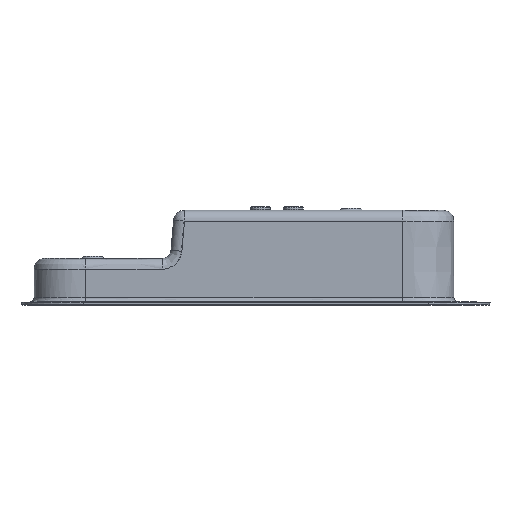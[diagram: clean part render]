
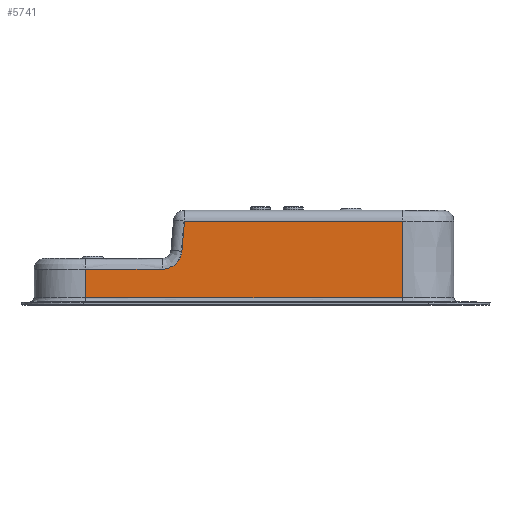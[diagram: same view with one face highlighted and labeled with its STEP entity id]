
A CAD part, top view. The second image highlights one B-rep face of the part: STEP entity #5741.
In plain terms, the highlighted planar face has unit normal (0, 0, 1) as drawn and (0, 1, 0) by its records, which use the part's own axes.
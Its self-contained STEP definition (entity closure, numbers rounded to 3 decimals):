
#419=B_SPLINE_CURVE_WITH_KNOTS('',3,(#13692,#13693,#13694,#13695,#13696,
#13697,#13698,#13699,#13700,#13701,#13702,#13703,#13704,#13705,#13706,#13707,
#13708,#13709,#13710,#13711,#13712,#13713,#13714,#13715,#13716,#13717,#13718,
#13719,#13720,#13721,#13722,#13723,#13724,#13725,#13726,#13727,#13728,#13729,
#13730,#13731,#13732,#13733,#13734,#13735,#13736,#13737,#13738,#13739,#13740,
#13741,#13742,#13743,#13744,#13745,#13746,#13747,#13748,#13749,#13750,#13751,
#13752,#13753,#13754,#13755,#13756,#13757,#13758,#13759,#13760,#13761,#13762,
#13763,#13764,#13765,#13766,#13767,#13768,#13769,#13770),.UNSPECIFIED.,
 .F.,.F.,(4,3,3,3,3,3,3,3,3,3,3,3,3,3,3,3,3,3,3,3,3,3,3,3,3,3,4),(-1.,-0.96,
-0.919,-0.877,-0.835,-0.793,
-0.75,-0.711,-0.672,-0.633,-0.594,
-0.554,-0.515,-0.5,-0.461,-0.421,
-0.382,-0.343,-0.304,-0.265,
-0.25,-0.208,-0.166,-0.125,-0.084,
-0.042,0.),.UNSPECIFIED.);
#727=PLANE('',#6156);
#929=FACE_OUTER_BOUND('',#1295,.T.);
#1295=EDGE_LOOP('',(#4802,#4803,#4804,#4805,#4806,#4807,#4808));
#1799=LINE('',#13690,#2244);
#1800=LINE('',#13772,#2245);
#1801=LINE('',#13774,#2246);
#1802=LINE('',#13776,#2247);
#1803=LINE('',#13778,#2248);
#1804=LINE('',#13779,#2249);
#2244=VECTOR('',#6913,10.);
#2245=VECTOR('',#6914,10.);
#2246=VECTOR('',#6915,10.);
#2247=VECTOR('',#6916,10.);
#2248=VECTOR('',#6917,10.);
#2249=VECTOR('',#6918,10.);
#2783=VERTEX_POINT('',#13688);
#2784=VERTEX_POINT('',#13689);
#2785=VERTEX_POINT('',#13691);
#2786=VERTEX_POINT('',#13771);
#2787=VERTEX_POINT('',#13773);
#2788=VERTEX_POINT('',#13775);
#2789=VERTEX_POINT('',#13777);
#3490=EDGE_CURVE('',#2783,#2784,#1799,.T.);
#3491=EDGE_CURVE('',#2785,#2783,#419,.T.);
#3492=EDGE_CURVE('',#2786,#2785,#1800,.T.);
#3493=EDGE_CURVE('',#2787,#2786,#1801,.T.);
#3494=EDGE_CURVE('',#2788,#2787,#1802,.T.);
#3495=EDGE_CURVE('',#2789,#2788,#1803,.T.);
#3496=EDGE_CURVE('',#2784,#2789,#1804,.T.);
#4802=ORIENTED_EDGE('',*,*,#3490,.F.);
#4803=ORIENTED_EDGE('',*,*,#3491,.F.);
#4804=ORIENTED_EDGE('',*,*,#3492,.F.);
#4805=ORIENTED_EDGE('',*,*,#3493,.F.);
#4806=ORIENTED_EDGE('',*,*,#3494,.F.);
#4807=ORIENTED_EDGE('',*,*,#3495,.F.);
#4808=ORIENTED_EDGE('',*,*,#3496,.F.);
#5741=ADVANCED_FACE('',(#929),#727,.F.);
#6156=AXIS2_PLACEMENT_3D('',#13687,#6911,#6912);
#6911=DIRECTION('center_axis',(0.,-1.,0.));
#6912=DIRECTION('ref_axis',(0.,0.,-1.));
#6913=DIRECTION('',(0.085,0.,-0.996));
#6914=DIRECTION('',(1.,0.,0.));
#6915=DIRECTION('',(0.,0.,-1.));
#6916=DIRECTION('',(-1.,0.,0.));
#6917=DIRECTION('',(0.,0.,1.));
#6918=DIRECTION('',(1.,0.,0.));
#13687=CARTESIAN_POINT('Origin',(-72.444,432.743,-21.));
#13688=CARTESIAN_POINT('',(-27.661,432.743,-23.234));
#13689=CARTESIAN_POINT('',(-26.484,432.743,-37.));
#13690=CARTESIAN_POINT('',(-27.661,432.743,-23.234));
#13691=CARTESIAN_POINT('',(-36.628,432.743,-15.));
#13692=CARTESIAN_POINT('Ctrl Pts',(-36.628,432.743,-15.));
#13693=CARTESIAN_POINT('Ctrl Pts',(-36.448,432.743,-15.));
#13694=CARTESIAN_POINT('Ctrl Pts',(-36.268,432.743,-15.005));
#13695=CARTESIAN_POINT('Ctrl Pts',(-36.088,432.743,-15.016));
#13696=CARTESIAN_POINT('Ctrl Pts',(-35.907,432.743,-15.027));
#13697=CARTESIAN_POINT('Ctrl Pts',(-35.726,432.743,-15.043));
#13698=CARTESIAN_POINT('Ctrl Pts',(-35.546,432.743,-15.065));
#13699=CARTESIAN_POINT('Ctrl Pts',(-35.358,432.743,-15.087));
#13700=CARTESIAN_POINT('Ctrl Pts',(-35.172,432.743,-15.116));
#13701=CARTESIAN_POINT('Ctrl Pts',(-34.986,432.743,-15.15));
#13702=CARTESIAN_POINT('Ctrl Pts',(-34.805,432.743,-15.183));
#13703=CARTESIAN_POINT('Ctrl Pts',(-34.624,432.743,-15.223));
#13704=CARTESIAN_POINT('Ctrl Pts',(-34.445,432.743,-15.267));
#13705=CARTESIAN_POINT('Ctrl Pts',(-34.26,432.743,-15.313));
#13706=CARTESIAN_POINT('Ctrl Pts',(-34.078,432.743,-15.365));
#13707=CARTESIAN_POINT('Ctrl Pts',(-33.897,432.743,-15.422));
#13708=CARTESIAN_POINT('Ctrl Pts',(-33.717,432.743,-15.48));
#13709=CARTESIAN_POINT('Ctrl Pts',(-33.538,432.743,-15.543));
#13710=CARTESIAN_POINT('Ctrl Pts',(-33.363,432.743,-15.612));
#13711=CARTESIAN_POINT('Ctrl Pts',(-33.203,432.743,-15.674));
#13712=CARTESIAN_POINT('Ctrl Pts',(-33.045,432.743,-15.741));
#13713=CARTESIAN_POINT('Ctrl Pts',(-32.888,432.743,-15.812));
#13714=CARTESIAN_POINT('Ctrl Pts',(-32.731,432.743,-15.884));
#13715=CARTESIAN_POINT('Ctrl Pts',(-32.575,432.743,-15.961));
#13716=CARTESIAN_POINT('Ctrl Pts',(-32.421,432.743,-16.042));
#13717=CARTESIAN_POINT('Ctrl Pts',(-32.267,432.743,-16.124));
#13718=CARTESIAN_POINT('Ctrl Pts',(-32.115,432.743,-16.21));
#13719=CARTESIAN_POINT('Ctrl Pts',(-31.965,432.743,-16.301));
#13720=CARTESIAN_POINT('Ctrl Pts',(-31.815,432.743,-16.392));
#13721=CARTESIAN_POINT('Ctrl Pts',(-31.667,432.743,-16.488));
#13722=CARTESIAN_POINT('Ctrl Pts',(-31.522,432.743,-16.588));
#13723=CARTESIAN_POINT('Ctrl Pts',(-31.377,432.743,-16.688));
#13724=CARTESIAN_POINT('Ctrl Pts',(-31.235,432.743,-16.792));
#13725=CARTESIAN_POINT('Ctrl Pts',(-31.096,432.743,-16.901));
#13726=CARTESIAN_POINT('Ctrl Pts',(-30.957,432.743,-17.009));
#13727=CARTESIAN_POINT('Ctrl Pts',(-30.822,432.743,-17.121));
#13728=CARTESIAN_POINT('Ctrl Pts',(-30.69,432.743,-17.237));
#13729=CARTESIAN_POINT('Ctrl Pts',(-30.64,432.743,-17.281));
#13730=CARTESIAN_POINT('Ctrl Pts',(-30.59,432.743,-17.326));
#13731=CARTESIAN_POINT('Ctrl Pts',(-30.541,432.743,-17.371));
#13732=CARTESIAN_POINT('Ctrl Pts',(-30.412,432.743,-17.489));
#13733=CARTESIAN_POINT('Ctrl Pts',(-30.286,432.743,-17.612));
#13734=CARTESIAN_POINT('Ctrl Pts',(-30.164,432.743,-17.738));
#13735=CARTESIAN_POINT('Ctrl Pts',(-30.041,432.743,-17.864));
#13736=CARTESIAN_POINT('Ctrl Pts',(-29.922,432.743,-17.994));
#13737=CARTESIAN_POINT('Ctrl Pts',(-29.807,432.743,-18.128));
#13738=CARTESIAN_POINT('Ctrl Pts',(-29.693,432.743,-18.261));
#13739=CARTESIAN_POINT('Ctrl Pts',(-29.582,432.743,-18.398));
#13740=CARTESIAN_POINT('Ctrl Pts',(-29.475,432.743,-18.538));
#13741=CARTESIAN_POINT('Ctrl Pts',(-29.368,432.743,-18.676));
#13742=CARTESIAN_POINT('Ctrl Pts',(-29.266,432.743,-18.819));
#13743=CARTESIAN_POINT('Ctrl Pts',(-29.168,432.743,-18.963));
#13744=CARTESIAN_POINT('Ctrl Pts',(-29.071,432.743,-19.107));
#13745=CARTESIAN_POINT('Ctrl Pts',(-28.978,432.743,-19.254));
#13746=CARTESIAN_POINT('Ctrl Pts',(-28.889,432.743,-19.403));
#13747=CARTESIAN_POINT('Ctrl Pts',(-28.801,432.743,-19.551));
#13748=CARTESIAN_POINT('Ctrl Pts',(-28.717,432.743,-19.702));
#13749=CARTESIAN_POINT('Ctrl Pts',(-28.638,432.743,-19.854));
#13750=CARTESIAN_POINT('Ctrl Pts',(-28.607,432.743,-19.913));
#13751=CARTESIAN_POINT('Ctrl Pts',(-28.577,432.743,-19.972));
#13752=CARTESIAN_POINT('Ctrl Pts',(-28.548,432.743,-20.032));
#13753=CARTESIAN_POINT('Ctrl Pts',(-28.466,432.743,-20.199));
#13754=CARTESIAN_POINT('Ctrl Pts',(-28.389,432.743,-20.369));
#13755=CARTESIAN_POINT('Ctrl Pts',(-28.317,432.743,-20.542));
#13756=CARTESIAN_POINT('Ctrl Pts',(-28.246,432.743,-20.713));
#13757=CARTESIAN_POINT('Ctrl Pts',(-28.18,432.743,-20.886));
#13758=CARTESIAN_POINT('Ctrl Pts',(-28.119,432.743,-21.062));
#13759=CARTESIAN_POINT('Ctrl Pts',(-28.059,432.743,-21.237));
#13760=CARTESIAN_POINT('Ctrl Pts',(-28.004,432.743,-21.414));
#13761=CARTESIAN_POINT('Ctrl Pts',(-27.955,432.743,-21.593));
#13762=CARTESIAN_POINT('Ctrl Pts',(-27.906,432.743,-21.768));
#13763=CARTESIAN_POINT('Ctrl Pts',(-27.863,432.743,-21.946));
#13764=CARTESIAN_POINT('Ctrl Pts',(-27.825,432.743,-22.124));
#13765=CARTESIAN_POINT('Ctrl Pts',(-27.786,432.743,-22.307));
#13766=CARTESIAN_POINT('Ctrl Pts',(-27.753,432.743,-22.492));
#13767=CARTESIAN_POINT('Ctrl Pts',(-27.726,432.743,-22.677));
#13768=CARTESIAN_POINT('Ctrl Pts',(-27.698,432.743,-22.862));
#13769=CARTESIAN_POINT('Ctrl Pts',(-27.677,432.743,-23.047));
#13770=CARTESIAN_POINT('Ctrl Pts',(-27.661,432.743,-23.234));
#13771=CARTESIAN_POINT('',(-71.719,432.743,-15.));
#13772=CARTESIAN_POINT('',(-71.719,432.743,-15.));
#13773=CARTESIAN_POINT('',(-71.719,432.743,-2.));
#13774=CARTESIAN_POINT('',(-71.719,432.743,-2.));
#13775=CARTESIAN_POINT('',(73.204,432.743,-2.));
#13776=CARTESIAN_POINT('',(73.204,432.743,-2.));
#13777=CARTESIAN_POINT('',(73.204,432.743,-37.));
#13778=CARTESIAN_POINT('',(73.204,432.743,-37.));
#13779=CARTESIAN_POINT('',(-26.484,432.743,-37.));
